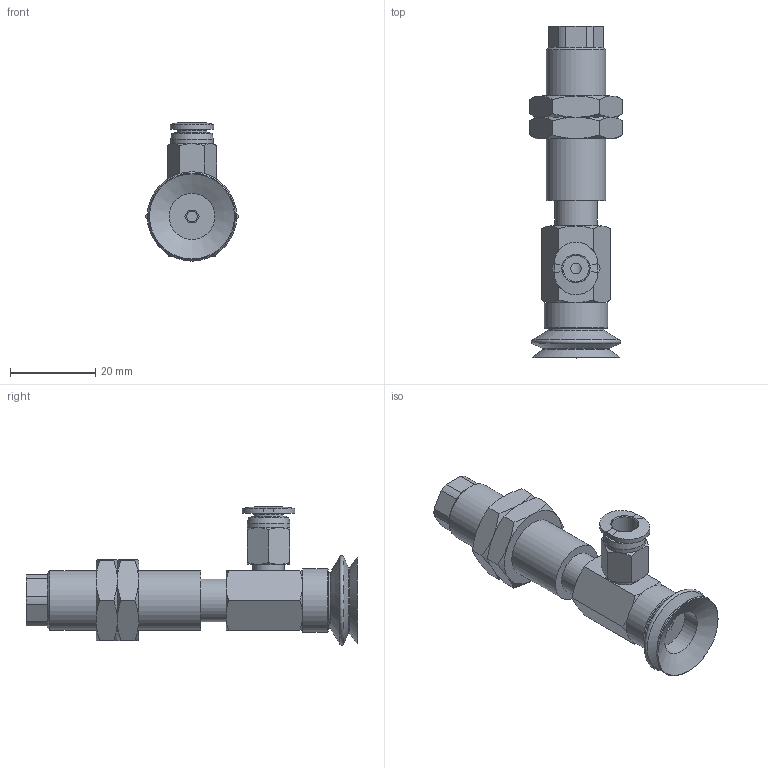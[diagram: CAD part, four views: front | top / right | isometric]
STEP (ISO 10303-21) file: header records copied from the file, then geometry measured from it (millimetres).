
FILE_DESCRIPTION(('STEP AP203'),'1');
FILE_NAME('-O.stp','2025-04-24T01:25:20',(' '),(' '),'Spatial InterOp 3D',' ',' ');
FILE_SCHEMA(('CONFIG_CONTROL_DESIGN'));
Length unit declared in the file: millimetre
Products named in the file (8): BNABPJYS-20-6-※-O; Adapter-20-NAPJ; CONNECTOR_S-20-6; NUT-NAPJ-20-6-s; NAPJTS-20-6-FBODY; NAPJTS-20-6-MBODY; BPJG-20-※; PC-C_06-M5
Assembly tree (8 placements, depth 2):
  BNABPJYS-20-6-※-O
    Adapter-20-NAPJ
    CONNECTOR_S-20-6
    NUT-NAPJ-20-6-s  x2
    NAPJTS-20-6-FBODY
    NAPJTS-20-6-MBODY
    BPJG-20-※
    PC-C_06-M5
Bounding box: 21.94 x 78 x 32.48 mm (x, y, z)
Volume: 12794.1 mm3; surface area: 11471.4 mm2
Topology: 7 solids, 10 shells, 194 faces, 412 edges, 251 vertices
Faces by surface type: plane 77, cone 70, cylinder 31, torus 9, bspline 4, revolution 3
Full cylindrical faces by diameter (mm): 2.5 x1, 3 x1, 4 x2, 4.134 x3, 4.6 x1, 5 x3, 7 x1, 7.4 x1, 8.2 x1, 10 x3, 10.8 x1, 11 x1, 13.188 x2, 14 x1, 15 x1
Entity records: 5158 total; most frequent: CARTESIAN_POINT 1413, DIRECTION 699, ORIENTED_EDGE 604, EDGE_CURVE 304, AXIS2_PLACEMENT_3D 302, EDGE_LOOP 250, VERTEX_POINT 214, FACE_OUTER_BOUND 142
